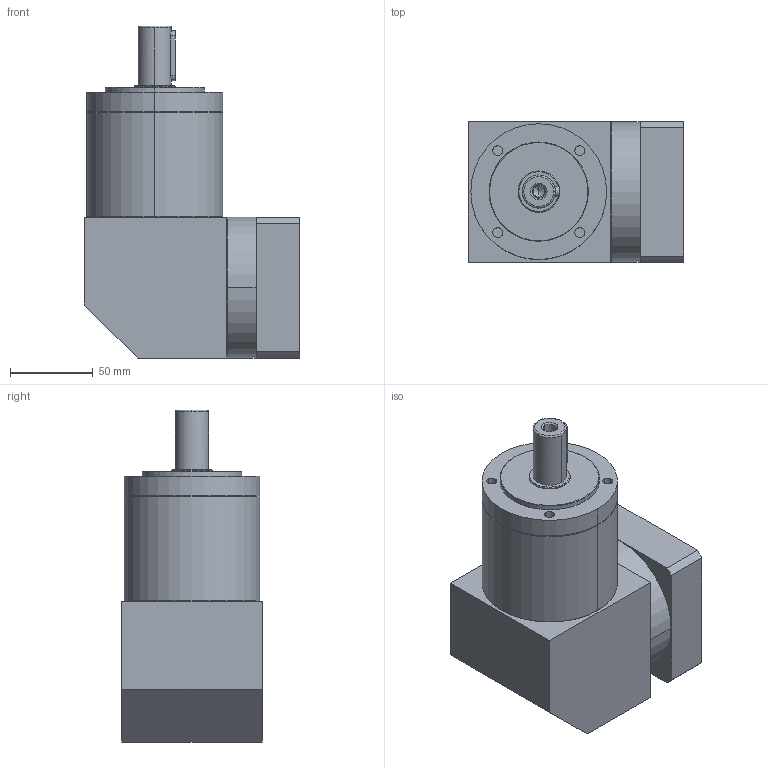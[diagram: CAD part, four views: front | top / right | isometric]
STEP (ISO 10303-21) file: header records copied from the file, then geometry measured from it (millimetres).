
FILE_DESCRIPTION((''),'2;1');
FILE_NAME('ASM0096_ASM','2017-07-19T',('Administrator'),(''),'PRO/ENGINEER BY PARAMETRIC TECHNOLOGY CORPORATION, 2013230','PRO/ENGINEER BY PARAMETRIC TECHNOLOGY CORPORATION, 2013230','');
FILE_SCHEMA(('CONFIG_CONTROL_DESIGN'));
Length unit declared in the file: millimetre
Products named in the file (12): PRT0234; PRT0235; PRT0236; PRT0237; ASM0154_ASM; ZER80-19_ASM; PRT0245; PRT0248; PRT0249; ASM0164_ASM; ASM0163_ASM; ASM0096_ASM
Assembly tree (11 placements, depth 4):
  ASM0096_ASM
    ZER80-19_ASM
      ASM0154_ASM
        PRT0234
        PRT0235
        PRT0236
        PRT0237
    PRT0245
    ASM0163_ASM
      ASM0164_ASM
        PRT0248
        PRT0249
Bounding box: 130 x 85 x 200.5 mm (x, y, z)
Volume: 993578 mm3; surface area: 151684.1 mm2
Topology: 7 solids, 7 shells, 148 faces, 349 edges, 220 vertices
Faces by surface type: cylinder 68, plane 47, cone 28, torus 5
Entity records: 4688 total; most frequent: DIRECTION 866, CARTESIAN_POINT 862, ORIENTED_EDGE 678, AXIS2_PLACEMENT_3D 360, EDGE_CURVE 339, VERTEX_POINT 220, EDGE_LOOP 181, CIRCLE 181
